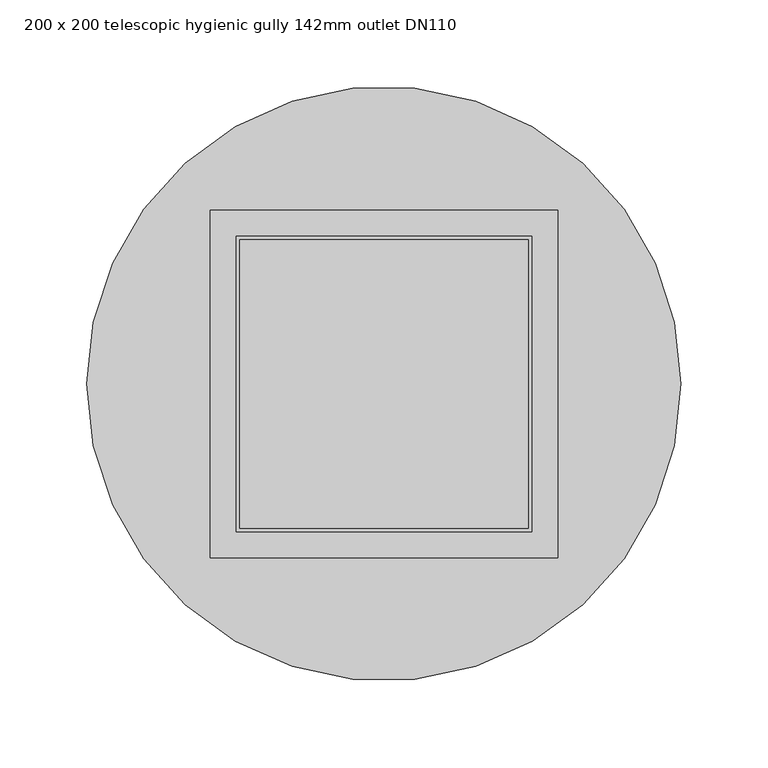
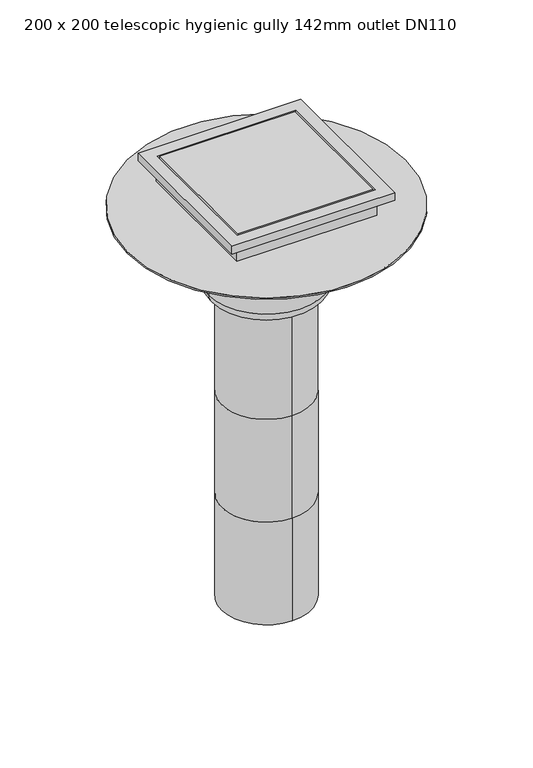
"""IFC4 building model written with IfcOpenShell, lengths in millimetres: sanitary terminal geometry, PF_ST_UN_Siphon telescopics eskis elongated hygiene first_ACO : 200 x 200 telescopic hygienic gully 142mm outlet DN110."""

import ifcopenshell
import ifcopenshell.guid

model = None  # the IFC model being written
_history = None  # IfcOwnerHistory: only IFC2X3 demands one
_inside = {}  # id of a spatial element -> (the spatial element, [elements in it])
_under = {}  # id of a project, library or spatial element -> (it, [spatial elements below it])
_declared = {}  # id of a project -> (the project, [libraries it declares])
_typed = {}  # id of a type object -> (the type object, [elements of that type])
_made_of = {}  # id of a material, layer set ... -> (it, [elements and type objects made of it])


def new_model(schema):
    """Start an empty IFC model of exactly this schema.

    Asked for "IFC4X3", IfcOpenShell would pick the latest addendum, in which some entities
    have other attributes; the version numbers below select the first issue.
    IFC2X3 requires an IfcOwnerHistory on every rooted entity: one is made here for all.
    """
    global model, _history
    if schema == "IFC4X3":
        model = ifcopenshell.file(schema_version=(4, 3, 0, 0))
    else:
        model = ifcopenshell.file(schema=schema)
    _inside.clear()
    _under.clear()
    _declared.clear()
    _typed.clear()
    _made_of.clear()
    _history = None
    if model.schema == "IFC2X3":
        org = make("IfcOrganization", Name="unknown")
        user = make(
            "IfcPersonAndOrganization",
            ThePerson=make("IfcPerson", FamilyName="unknown"),
            TheOrganization=org,
        )
        app = make(
            "IfcApplication",
            ApplicationDeveloper=org,
            Version="unknown",
            ApplicationFullName="unknown",
            ApplicationIdentifier="unknown",
        )
        _history = make(
            "IfcOwnerHistory",
            OwningUser=user,
            OwningApplication=app,
            ChangeAction="ADDED",
            CreationDate=0,
        )
    return model


def make(cls, **values):
    """One entity of the class cls with the attributes given. An attribute that is None is left unset."""
    return model.create_entity(
        cls, **{name: value for name, value in values.items() if value is not None}
    )


def rooted(cls, **values):
    """An entity with a GlobalId (a new one), such as an element, a storey or a relation."""
    return make(cls, GlobalId=ifcopenshell.guid.new(), OwnerHistory=_history, **values)


def si_unit(unit_type, name, prefix=None):
    """IfcSIUnit, for example si_unit("LENGTHUNIT", "METRE", prefix="MILLI")."""
    return make("IfcSIUnit", UnitType=unit_type, Prefix=prefix, Name=name)


def assignment(units):
    """IfcUnitAssignment: the units of a project."""
    return None if units is None else make("IfcUnitAssignment", Units=units)


def point(xyz):
    """IfcCartesianPoint."""
    return None if xyz is None else make("IfcCartesianPoint", Coordinates=xyz)


def direction(xyz):
    """IfcDirection."""
    return None if xyz is None else make("IfcDirection", DirectionRatios=xyz)


def frame(location, z_axis=None, x_axis=None):
    """IfcAxis2Placement3D, a coordinate frame: its origin and axes. An axis left out is left unset."""
    return make(
        "IfcAxis2Placement3D",
        Location=point(location),
        Axis=direction(z_axis),
        RefDirection=direction(x_axis),
    )


def frame_2d(location, x_axis=None):
    """IfcAxis2Placement2D, a coordinate frame in the plane: its origin and x axis."""
    return make(
        "IfcAxis2Placement2D", Location=point(location), RefDirection=direction(x_axis)
    )


def origin():
    """The frame at (0, 0, 0) with its axes left unset."""
    return frame((0.0, 0.0, 0.0))


def origin_2d():
    """The frame at (0, 0) in the plane with its x axis left unset."""
    return frame_2d((0.0, 0.0))


def place(relative_to, where):
    """IfcLocalPlacement: puts the frame where relative to a parent placement (None: the world)."""
    return make(
        "IfcLocalPlacement", PlacementRelTo=relative_to, RelativePlacement=where
    )


def context(
    kind, dimensions, precision=None, world=None, true_north=None, identifier=None
):
    """IfcGeometricRepresentationContext, for example the 3D "Model" context."""
    return make(
        "IfcGeometricRepresentationContext",
        ContextIdentifier=identifier,
        ContextType=kind,
        CoordinateSpaceDimension=dimensions,
        Precision=precision,
        WorldCoordinateSystem=world,
        TrueNorth=true_north,
    )


def project(units=None, contexts=None):
    """IfcProject with its units and contexts."""
    return rooted(
        "IfcProject",
        Name="project",
        RepresentationContexts=contexts,
        UnitsInContext=assignment(units),
    )


def spatial(cls, under=None, at=None, **own):
    """A site, building, storey or space (cls), placed at a placement, below another one or the project."""
    s = rooted(cls, ObjectPlacement=at, **own)
    if under is not None:
        _under.setdefault(under.id(), (under, []))[1].append(s)
    return s


def polyline(points):
    """IfcPolyline through the points."""
    return make("IfcPolyline", Points=[point(p) for p in points])


def circle_curve(where, radius):
    """IfcCircle in the frame where."""
    return make("IfcCircle", Position=where, Radius=radius)


def ellipse_curve(where, semi_axis1, semi_axis2):
    """IfcEllipse in the frame where."""
    return make(
        "IfcEllipse", Position=where, SemiAxis1=semi_axis1, SemiAxis2=semi_axis2
    )


def trimmed(basis, trim1, trim2, sense, master):
    """IfcTrimmedCurve: the piece of a basis curve between two trims."""
    return make(
        "IfcTrimmedCurve",
        BasisCurve=basis,
        Trim1=trim1,
        Trim2=trim2,
        SenseAgreement=sense,
        MasterRepresentation=master,
    )


def segment(curve, same_sense, transition):
    """IfcCompositeCurveSegment."""
    return make(
        "IfcCompositeCurveSegment",
        Transition=transition,
        SameSense=same_sense,
        ParentCurve=curve,
    )


def composite_curve(segments, self_intersect=None):
    """IfcCompositeCurve: segments joined end to end."""
    return make("IfcCompositeCurve", Segments=segments, SelfIntersect=self_intersect)


def outline(outer, holes=None, kind="AREA"):
    """IfcArbitraryClosedProfileDef: a profile drawn as a closed curve; with holes, ...WithVoids."""
    if holes is None:
        return make("IfcArbitraryClosedProfileDef", ProfileType=kind, OuterCurve=outer)
    return make(
        "IfcArbitraryProfileDefWithVoids",
        ProfileType=kind,
        OuterCurve=outer,
        InnerCurves=holes,
    )


def extrude(swept, where, along, depth):
    """IfcExtrudedAreaSolid: the profile swept, set in the frame where, extruded along a direction by depth."""
    return make(
        "IfcExtrudedAreaSolid",
        SweptArea=swept,
        Position=where,
        ExtrudedDirection=direction(along),
        Depth=depth,
    )


def faces_of(points, faces, orient=None, outer=None):
    """IfcFace entities. A face is a list of loops; a loop is a list of indices into points, from 0.

    orient and outer hold one flag for each loop. By default every Orientation is true, the
    first loop of a face is its IfcFaceOuterBound and the others are IfcFaceBound.
    """
    made = []
    for i, loops in enumerate(faces):
        bounds = []
        for j, loop in enumerate(loops):
            is_outer = j == 0 if outer is None else outer[i][j]
            bounds.append(
                make(
                    "IfcFaceOuterBound" if is_outer else "IfcFaceBound",
                    Bound=make("IfcPolyLoop", Polygon=[points[k] for k in loop]),
                    Orientation=True if orient is None else orient[i][j],
                )
            )
        made.append(make("IfcFace", Bounds=bounds))
    return made


def faceted_brep(points, faces, orient=None, outer=None, voids=None):
    """IfcFacetedBrep: a solid bounded by flat faces; with voids (closed shells), ...WithVoids."""
    shared = [point(p) for p in points]
    hull = make("IfcClosedShell", CfsFaces=faces_of(shared, faces, orient, outer))
    if voids is None:
        return make("IfcFacetedBrep", Outer=hull)
    return make(
        "IfcFacetedBrepWithVoids",
        Outer=hull,
        Voids=[
            make(cls, CfsFaces=faces_of(shared, fs, o, b)) for cls, fs, o, b in voids
        ],
    )


def shape(context_of_items, identifier, shape_type, items):
    """IfcShapeRepresentation: the items that make up one representation, for example the "Body"."""
    return make(
        "IfcShapeRepresentation",
        ContextOfItems=context_of_items,
        RepresentationIdentifier=identifier,
        RepresentationType=shape_type,
        Items=items,
    )


def source(mapping_origin, context_of_items, identifier, shape_type, items):
    """IfcRepresentationMap: a shape defined once, which mapped items show again and again."""
    return make(
        "IfcRepresentationMap",
        MappingOrigin=mapping_origin,
        MappedRepresentation=shape(context_of_items, identifier, shape_type, items),
    )


def transform(
    local_origin,
    x_axis=None,
    y_axis=None,
    z_axis=None,
    scale=None,
    scale2=None,
    scale3=None,
    uniform=True,
):
    """IfcCartesianTransformationOperator3D, or its non-uniform kind. x_axis, y_axis, z_axis: its Axis1, 2, 3."""
    if uniform:
        return make(
            "IfcCartesianTransformationOperator3D",
            Axis1=direction(x_axis),
            Axis2=direction(y_axis),
            LocalOrigin=point(local_origin),
            Scale=scale,
            Axis3=direction(z_axis),
        )
    return make(
        "IfcCartesianTransformationOperator3DnonUniform",
        Axis1=direction(x_axis),
        Axis2=direction(y_axis),
        LocalOrigin=point(local_origin),
        Scale=scale,
        Axis3=direction(z_axis),
        Scale2=scale2,
        Scale3=scale3,
    )


def mapped(mapping_source, mapping_target):
    """IfcMappedItem: shows the shape of a source again, moved by a transform."""
    return make(
        "IfcMappedItem", MappingSource=mapping_source, MappingTarget=mapping_target
    )


def made_of(thing, what):
    """Note that an element or type object is made of a material, layer set ...; save() writes the relation."""
    if what is not None:
        _made_of.setdefault(what.id(), (what, []))[1].append(thing)
    return thing


def element(
    cls,
    number,
    at=None,
    inside=None,
    cuts=None,
    type_object=None,
    material=None,
    context=None,
    identifier="Body",
    shape_type=None,
    held_by="IfcProductDefinitionShape",
    body=None,
    shapes=None,
    **own,
):
    """One element of the class cls, such as IfcWall. Its Tag is "e" and its number.

    at: its placement. inside: the storey or other place that contains it. cuts: it is an
    opening in that element (IfcRelVoidsElement). A single representation is given by context,
    identifier, shape_type and body (its items); several are given by shapes. held_by: the class
    of the entity that holds the representations. save() writes the other relations.
    """
    e = rooted(cls, Tag="e%d" % number, ObjectPlacement=at, **own)
    if body is not None:
        shapes = [shape(context, identifier, shape_type, body)]
    if shapes is not None:
        e.Representation = make(held_by, Representations=shapes)
    if inside is not None:
        _inside.setdefault(inside.id(), (inside, []))[1].append(e)
    if cuts is not None:
        rooted(
            "IfcRelVoidsElement", RelatingBuildingElement=cuts, RelatedOpeningElement=e
        )
    if type_object is not None:
        _typed.setdefault(type_object.id(), (type_object, []))[1].append(e)
    return made_of(e, material)


def aggregate(whole, parts):
    """IfcRelAggregates: a whole, such as a stair, and the parts it consists of."""
    return rooted("IfcRelAggregates", RelatingObject=whole, RelatedObjects=parts)


def save(model, path):
    """Write the relations noted so far, then the file.

    IfcRelAggregates (storeys below a building ...), IfcRelContainedInSpatialStructure (elements
    in a storey), IfcRelDefinesByType, IfcRelAssociatesMaterial and IfcRelDeclares: one each for
    every whole, place, type object, material and project.
    """
    for whole, parts in _under.values():
        aggregate(whole, parts)
    for where, things in _inside.values():
        rooted(
            "IfcRelContainedInSpatialStructure",
            RelatedElements=things,
            RelatingStructure=where,
        )
    for kind, things in _typed.values():
        rooted("IfcRelDefinesByType", RelatedObjects=things, RelatingType=kind)
    for what, things in _made_of.values():
        rooted("IfcRelAssociatesMaterial", RelatedObjects=things, RelatingMaterial=what)
    for by, libraries in _declared.values():
        rooted("IfcRelDeclares", RelatingContext=by, RelatedDefinitions=libraries)
    model.write(path)


def plane_surface(at):
    """IfcPlane: the flat surface through the origin of the frame at, square to its z axis."""
    return make("IfcPlane", Position=at)


def cylinder_surface(at, radius):
    """IfcCylindricalSurface: all points at the distance radius from the z axis of the frame at."""
    return make("IfcCylindricalSurface", Position=at, Radius=radius)


def revolved_surface(curve, axis_point, axis_direction):
    """IfcSurfaceOfRevolution: the curve turned about the line through axis_point along axis_direction."""
    return make(
        "IfcSurfaceOfRevolution",
        SweptCurve=make("IfcArbitraryOpenProfileDef", ProfileType="CURVE", Curve=curve),
        AxisPosition=make("IfcAxis1Placement", Location=point(axis_point), Axis=direction(axis_direction)),
    )


def advanced_brep(points, edges, surfaces, faces):
    """IfcAdvancedBrep: a solid bounded by faces that lie on surfaces and meet in shared edges.

    An edge is (start, end): straight between two places in points (the first is 0);
    or (start, end, curve); or (start, end, curve, False) where it runs against its curve.
    A face is (place in surfaces, loops), or (place, loops, False) where it looks against
    its surface's normal. A loop lists edges by number (the first is 1), with a minus sign
    where the edge is run from its end to its start. The first loop is the outer one.
    """
    corners = [point(p) for p in points]
    vertices = [make("IfcVertexPoint", VertexGeometry=c) for c in corners]
    made = []
    for start, end, *more in edges:
        made.append(
            make(
                "IfcEdgeCurve",
                EdgeStart=vertices[start],
                EdgeEnd=vertices[end],
                EdgeGeometry=more[0] if more else make("IfcPolyline", Points=[corners[start], corners[end]]),
                SameSense=more[1] if len(more) > 1 else True,
            )
        )
    hull = []
    for where, loops, *sense in faces:
        bounds = []
        for j, loop in enumerate(loops):
            ring = [make("IfcOrientedEdge", EdgeElement=made[abs(k) - 1], Orientation=k > 0) for k in loop]
            bounds.append(
                make(
                    "IfcFaceOuterBound" if j == 0 else "IfcFaceBound",
                    Bound=make("IfcEdgeLoop", EdgeList=ring),
                    Orientation=True,
                )
            )
        hull.append(make("IfcAdvancedFace", Bounds=bounds, FaceSurface=surfaces[where], SameSense=sense[0] if sense else True))
    return make("IfcAdvancedBrep", Outer=make("IfcClosedShell", CfsFaces=hull))


def sanitary_terminal_200_x_200_telescopic_hygienic_gully_142mm_40c60f36(model_context):
    return source(origin(), model_context, "Body", "SolidModel", [
        extrude(outline(composite_curve([segment(trimmed(circle_curve(origin_2d(), 62.5), [point((-62.5, 0.0))], [point((62.5, 0.0))], False, "CARTESIAN"), True, "CONTINUOUS"), segment(trimmed(circle_curve(origin_2d(), 62.5), [point((62.5, 0.0))], [point((-62.5, 0.0))], False, "CARTESIAN"), True, "CONTINUOUS")], self_intersect=False)), frame((0.0, 0.0, -198.0), z_axis=(0.0, 0.0, 1.0), x_axis=(1.0, 0.0, 0.0)), (0.0, 0.0, 1.0), 45.0),
        faceted_brep([(100.0, 100.0, -130.0), (100.0, 100.0, -120.0), (100.0, -100.0, -120.0), (100.0, -100.0, -130.0), (86.0, 86.0, -153.0), (86.0, 86.0, -130.0), (86.0, -86.0, -130.0), (86.0, -86.0, -153.0), (85.0, -85.0, -120.0), (85.0, 85.0, -120.0), (85.0, 85.0, -143.0), (85.0, -85.0, -143.0), (-100.0, -100.0, -120.0), (-100.0, -100.0, -130.0), (-86.0, -86.0, -130.0), (-86.0, -86.0, -153.0), (-85.0, -85.0, -120.0), (-85.0, -85.0, -143.0), (-100.0, 100.0, -120.0), (-100.0, 100.0, -130.0), (-86.0, 86.0, -130.0), (-86.0, 86.0, -153.0), (-85.0, 85.0, -120.0), (-85.0, 85.0, -143.0)], [[[0, 1, 2, 3]], [[4, 5, 6, 7]], [[8, 9, 10, 11]], [[3, 2, 12, 13]], [[7, 6, 14, 15]], [[16, 8, 11, 17]], [[13, 12, 18, 19]], [[15, 14, 20, 21]], [[22, 16, 17, 23]], [[2, 1, 18, 12], [9, 8, 16, 22]], [[1, 0, 19, 18]], [[0, 3, 13, 19], [6, 5, 20, 14]], [[5, 4, 21, 20]], [[4, 7, 15, 21]], [[9, 22, 23, 10]], [[11, 10, 23, 17]]]),
        extrude(outline(polyline([(83.0, 83.0), (83.0, -83.0), (-83.0, -83.0), (-83.0, 83.0), (83.0, 83.0)])), frame((0.0, 0.0, -143.0), z_axis=(0.0, 0.0, 1.0), x_axis=(1.0, 0.0, 0.0)), (0.0, 0.0, 1.0), 23.0),
        advanced_brep(
        [(0.0, -55.0, -669.0), (0.0, 55.0, -669.0), (0.0, -55.0, -535.6666667), (0.0, 55.0, -535.6666667), (0.0, -55.0, -402.3333333), (0.0, 55.0, -402.3333333), (0.0, 55.0, -269.0), (55.0, 0.0, -269.0), (0.0, -55.0, -269.0), (-55.0, 0.0, -269.0), (71.0, 0.0, -254.0), (-71.0, 0.0, -254.0), (-71.0, 0.0, -165.0), (71.0, 0.0, -165.0), (56.0, 0.0, -269.0), (-56.0, 0.0, -269.0), (-171.0, 0.0, -165.0), (171.0, 0.0, -165.0), (-171.0, 0.0, -163.0), (171.0, 0.0, -163.0)],
        [
            (0, 1, circle_curve(frame((0.0, 0.0, -669.0), z_axis=(0.0, 0.0, -1.0), x_axis=(0.0, 1.0, 0.0)), 55.0)),
            (1, 0, circle_curve(frame((0.0, 0.0, -669.0), z_axis=(0.0, 0.0, -1.0), x_axis=(0.0, 1.0, 0.0)), 55.0)),
            (0, 2),
            (2, 3, circle_curve(frame((0.0, 0.0, -535.6666667), z_axis=(0.0, 0.0, -1.0), x_axis=(0.0, 1.0, 0.0)), 55.0)),
            (3, 1),
            (3, 2, circle_curve(frame((0.0, 0.0, -535.6666667), z_axis=(0.0, 0.0, -1.0), x_axis=(0.0, 1.0, 0.0)), 55.0)),
            (4, 2),
            (3, 5),
            (5, 4, circle_curve(frame((0.0, 0.0, -402.3333333), z_axis=(0.0, 0.0, -1.0), x_axis=(1.0, 0.0, 0.0)), 55.0)),
            (4, 5, circle_curve(frame((0.0, 0.0, -402.3333333), z_axis=(0.0, 0.0, -1.0), x_axis=(-1.0, 0.0, 0.0)), 55.0)),
            (5, 6),
            (6, 7, circle_curve(frame((0.0, 0.0, -269.0), z_axis=(0.0, 0.0, -1.0), x_axis=(0.0, 1.0, 0.0)), 55.0)),
            (7, 8, circle_curve(frame((0.0, 0.0, -269.0), z_axis=(0.0, 0.0, -1.0), x_axis=(0.0, 1.0, 0.0)), 55.0)),
            (8, 4),
            (8, 9, circle_curve(frame((0.0, 0.0, -269.0), z_axis=(0.0, 0.0, -1.0), x_axis=(0.0, 1.0, 0.0)), 55.0)),
            (9, 6, circle_curve(frame((0.0, 0.0, -269.0), z_axis=(0.0, 0.0, -1.0), x_axis=(0.0, 1.0, 0.0)), 55.0)),
            (10, 11, circle_curve(frame((0.0, 0.0, -254.0), z_axis=(0.0, 0.0, 1.0), x_axis=(-1.0, 0.0, 0.0)), 71.0)),
            (11, 12),
            (12, 13, circle_curve(frame((0.0, 0.0, -165.0), z_axis=(0.0, 0.0, -1.0), x_axis=(-1.0, 0.0, 0.0)), 71.0)),
            (13, 10),
            (11, 10, circle_curve(frame((0.0, 0.0, -254.0), z_axis=(0.0, 0.0, 1.0), x_axis=(-1.0, 0.0, 0.0)), 71.0)),
            (13, 12, circle_curve(frame((0.0, 0.0, -165.0), z_axis=(0.0, 0.0, -1.0), x_axis=(-1.0, 0.0, 0.0)), 71.0)),
            (10, 14, circle_curve(frame((56.0, 0.0, -254.0), z_axis=(0.0, 1.0, 0.0), x_axis=(-1.0, 0.0, 0.0)), 15.0)),
            (14, 15, circle_curve(frame((0.0, 0.0, -269.0), z_axis=(0.0, 0.0, 1.0), x_axis=(-1.0, 0.0, 0.0)), 56.0)),
            (15, 11, circle_curve(frame((-56.0, 0.0, -254.0), z_axis=(0.0, 1.0, 0.0), x_axis=(1.0, 0.0, 0.0)), 15.0)),
            (15, 14, circle_curve(frame((0.0, 0.0, -269.0), z_axis=(0.0, 0.0, 1.0), x_axis=(-1.0, 0.0, 0.0)), 56.0)),
            (14, 7),
            (9, 15),
            (16, 17, circle_curve(frame((0.0, 0.0, -165.0), z_axis=(0.0, 0.0, -1.0), x_axis=(1.0, 0.0, 0.0)), 171.0)),
            (17, 16, circle_curve(frame((0.0, 0.0, -165.0), z_axis=(0.0, 0.0, -1.0), x_axis=(1.0, 0.0, 0.0)), 171.0)),
            (18, 19, circle_curve(frame((0.0, 0.0, -163.0), z_axis=(0.0, 0.0, 1.0), x_axis=(1.0, 0.0, 0.0)), 171.0)),
            (19, 18, circle_curve(frame((0.0, 0.0, -163.0), z_axis=(0.0, 0.0, 1.0), x_axis=(1.0, 0.0, 0.0)), 171.0)),
            (17, 19),
            (18, 16),
        ],
        [
            plane_surface(frame((0.0, 55.0, -669.0), z_axis=(0.0, 0.0, -1.0), x_axis=(1.0, 0.0, 0.0))),
            cylinder_surface(frame((0.0, 0.0, -535.6666667), z_axis=(0.0, 0.0, -1.0), x_axis=(0.0, 1.0, 0.0)), 55.0),
            cylinder_surface(frame((0.0, 0.0, -402.3333333), z_axis=(0.0, 0.0, -1.0), x_axis=(1.0, 0.0, 0.0)), 55.0),
            cylinder_surface(frame((0.0, 0.0, -402.3333333), z_axis=(0.0, 0.0, -1.0), x_axis=(-1.0, 0.0, 0.0)), 55.0),
            cylinder_surface(frame((0.0, 0.0, -269.0), z_axis=(0.0, 0.0, -1.0), x_axis=(0.0, 1.0, 0.0)), 55.0),
            cylinder_surface(frame((0.0, 0.0, -103.0), z_axis=(0.0, 0.0, -1.0), x_axis=(-1.0, 0.0, 0.0)), 71.0),
            revolved_surface(trimmed(ellipse_curve(frame((-56.0, 0.0, -254.0), z_axis=(0.0, -1.0, 0.0), x_axis=(1.0, 0.0, 0.0)), 15.0, 15.0), [point((-71.0, 0.0, -254.0))], [point((-56.0, 0.0, -269.0))], True, "CARTESIAN"), (0.0, 0.0, -103.0), (0.0, 0.0, -1.0)),
            plane_surface(frame((0.0, 0.0, -269.0), z_axis=(0.0, 0.0, -1.0), x_axis=(-1.0, 0.0, 0.0))),
            plane_surface(frame((171.0, 0.0, -165.0), z_axis=(0.0, 0.0, -1.0), x_axis=(0.0, -1.0, 0.0))),
            plane_surface(frame((171.0, 0.0, -163.0), z_axis=(0.0, 0.0, 1.0), x_axis=(0.0, 1.0, 0.0))),
            cylinder_surface(frame((0.0, 0.0, -165.0), z_axis=(0.0, 0.0, 1.0), x_axis=(1.0, 0.0, 0.0)), 171.0),
        ],
        [
            (0, [[1, 2]]),
            (1, [[-1, 3, 4, 5]]),
            (1, [[-2, -5, 6, -3]]),
            (2, [[7, -6, 8, 9]]),
            (3, [[-7, 10, -8, -4]]),
            (4, [[11, 12, 13, 14, -9]]),
            (4, [[-11, -10, -14, 15, 16]]),
            (5, [[17, 18, 19, 20]]),
            (5, [[-18, 21, -20, 22]]),
            (6, [[-17, 23, 24, 25]]),
            (6, [[-21, -25, 26, -23]]),
            (7, [[-24, 27, -12, -16, 28]]),
            (7, [[-26, -28, -15, -13, -27]]),
            (8, [[29, 30], [-19, -22]]),
            (9, [[31, 32]]),
            (10, [[-30, 33, -31, 34]]),
            (10, [[-29, -34, -32, -33]]),
        ],
    ),
    ])


if __name__ == "__main__":
    model = new_model("IFC4")
    model_context = context("Model", 3, world=origin())
    ifc_project = project(units=[si_unit("LENGTHUNIT", "METRE", prefix="MILLI")], contexts=[model_context])
    site = spatial("IfcSite", under=ifc_project)
    building = spatial("IfcBuilding", under=site)
    placement = place(None, origin())
    sanitary_terminal_200_x_200_telescopic_hygienic_gully_142mm_shape = sanitary_terminal_200_x_200_telescopic_hygienic_gully_142mm_40c60f36(model_context)
    element("IfcSanitaryTerminal", 1, ObjectType="PF_ST_UN_Siphon telescopics eskis elongated hygiene first_ACO : 200 x 200 telescopic hygienic gully 142mm outlet DN110", at=placement, inside=building, context=model_context, shape_type="MappedRepresentation", body=[
        mapped(sanitary_terminal_200_x_200_telescopic_hygienic_gully_142mm_shape, transform((0.0, 0.0, 0.0), x_axis=(1.0, 0.0, 0.0), y_axis=(0.0, 1.0, 0.0), z_axis=(0.0, 0.0, 1.0))),
    ])
    save(model, "model.ifc")
